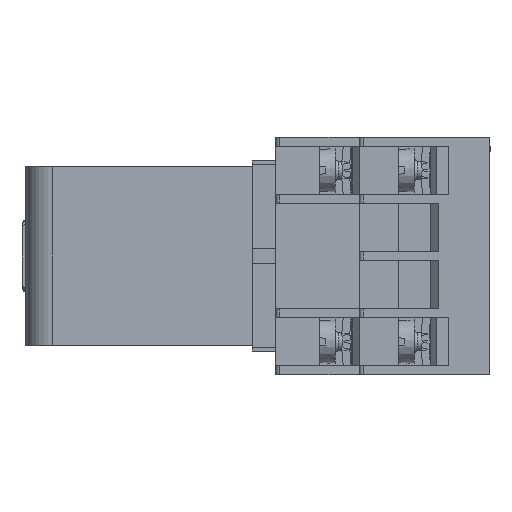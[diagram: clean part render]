
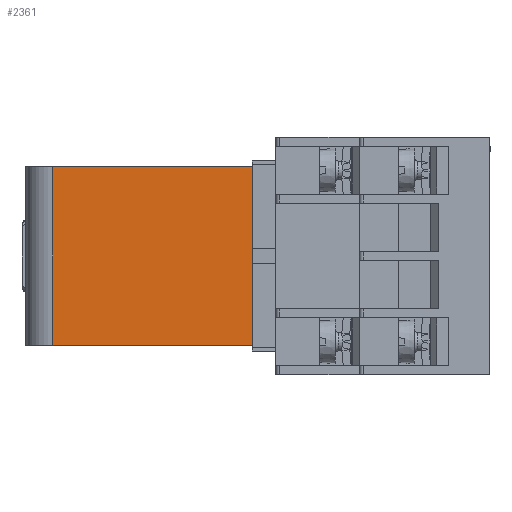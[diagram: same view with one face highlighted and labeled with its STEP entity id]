
A CAD part, left-side view. The second image highlights one B-rep face of the part: STEP entity #2361.
In plain terms, the highlighted planar face has unit normal (-1, 0, 0).
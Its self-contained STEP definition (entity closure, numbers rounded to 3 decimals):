
#2361=ADVANCED_FACE('',(#26440),#26442,.T.);
#26440=FACE_BOUND('',#26441,.T.);
#26441=EDGE_LOOP('',(#49425,#49426,#49427,#49428,#49429,#49430));
#26442=PLANE('',#26443);
#26443=AXIS2_PLACEMENT_3D('',#26444,#26445,#26446);
#26444=CARTESIAN_POINT('',(-16.375,30.,11.25));
#26445=DIRECTION('',(-1.,0.,0.));
#26446=DIRECTION('',(0.,1.,0.));
#49425=ORIENTED_EDGE('',*,*,#63755,.T.);
#49426=ORIENTED_EDGE('',*,*,#64347,.F.);
#49427=ORIENTED_EDGE('',*,*,#63745,.T.);
#49428=ORIENTED_EDGE('',*,*,#64349,.T.);
#49429=ORIENTED_EDGE('',*,*,#64350,.T.);
#49430=ORIENTED_EDGE('',*,*,#64351,.F.);
#63745=EDGE_CURVE('',#71572,#71816,#71818,.T.);
#63755=EDGE_CURVE('',#71828,#71591,#71833,.T.);
#64347=EDGE_CURVE('',#71572,#71591,#72792,.T.);
#64349=EDGE_CURVE('',#71816,#72794,#72795,.T.);
#64350=EDGE_CURVE('',#72794,#72796,#72797,.T.);
#64351=EDGE_CURVE('',#71828,#72796,#72798,.T.);
#71572=VERTEX_POINT('',#84826);
#71591=VERTEX_POINT('',#84865);
#71816=VERTEX_POINT('',#85374);
#71818=LINE('',#85378,#85379);
#71828=VERTEX_POINT('',#85402);
#71833=LINE('',#85413,#85414);
#72792=LINE('',#87579,#87580);
#72794=VERTEX_POINT('',#87585);
#72795=LINE('',#87586,#87587);
#72796=VERTEX_POINT('',#87589);
#72797=LINE('',#87590,#87591);
#72798=LINE('',#87593,#87594);
#84826=CARTESIAN_POINT('',(-16.375,30.,1.));
#84865=CARTESIAN_POINT('',(-16.375,30.,-1.));
#85374=CARTESIAN_POINT('',(-16.375,30.,11.25));
#85378=CARTESIAN_POINT('',(-16.375,30.,1.));
#85379=VECTOR('',#85380,1.);
#85380=DIRECTION('',(0.,0.,1.));
#85402=CARTESIAN_POINT('',(-16.375,30.,-11.25));
#85413=CARTESIAN_POINT('',(-16.375,30.,-11.25));
#85414=VECTOR('',#85415,1.);
#85415=DIRECTION('',(0.,0.,1.));
#87579=CARTESIAN_POINT('',(-16.375,30.,1.));
#87580=VECTOR('',#87581,1.);
#87581=DIRECTION('',(0.,0.,-1.));
#87585=CARTESIAN_POINT('',(-16.375,55.1,11.25));
#87586=CARTESIAN_POINT('',(-16.375,30.,11.25));
#87587=VECTOR('',#87588,1.);
#87588=DIRECTION('',(0.,1.,0.));
#87589=CARTESIAN_POINT('',(-16.375,55.1,-11.25));
#87590=CARTESIAN_POINT('',(-16.375,55.1,11.25));
#87591=VECTOR('',#87592,1.);
#87592=DIRECTION('',(0.,0.,-1.));
#87593=CARTESIAN_POINT('',(-16.375,30.,-11.25));
#87594=VECTOR('',#87595,1.);
#87595=DIRECTION('',(0.,1.,0.));
